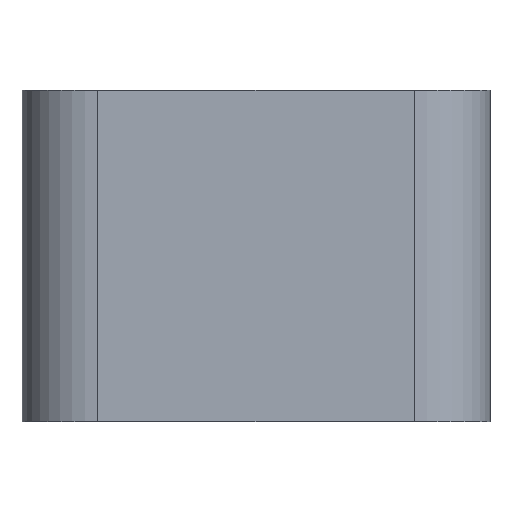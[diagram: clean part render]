
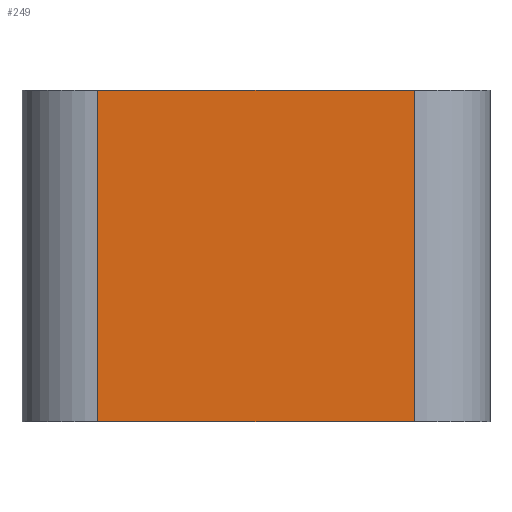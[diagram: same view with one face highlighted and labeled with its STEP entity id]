
A CAD part, top view. The second image highlights one B-rep face of the part: STEP entity #249.
In plain terms, the highlighted planar face has unit normal (0, 0, 1).
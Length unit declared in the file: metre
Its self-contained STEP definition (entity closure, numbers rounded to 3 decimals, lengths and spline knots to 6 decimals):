
#40=ORIENTED_EDGE('',*,*,#104,.T.);
#41=ORIENTED_EDGE('',*,*,#105,.T.);
#42=ORIENTED_EDGE('',*,*,#106,.F.);
#43=ORIENTED_EDGE('',*,*,#107,.T.);
#104=EDGE_CURVE('',#136,#137,#160,.T.);
#105=EDGE_CURVE('',#137,#138,#161,.F.);
#106=EDGE_CURVE('',#139,#138,#162,.T.);
#107=EDGE_CURVE('',#139,#136,#163,.T.);
#136=VERTEX_POINT('',#403);
#137=VERTEX_POINT('',#404);
#138=VERTEX_POINT('',#406);
#139=VERTEX_POINT('',#408);
#160=LINE('',#402,#176);
#161=LINE('',#405,#177);
#162=LINE('',#407,#178);
#163=LINE('',#409,#179);
#176=VECTOR('',#319,1.);
#177=VECTOR('',#320,1.);
#178=VECTOR('',#321,1.);
#179=VECTOR('',#322,1.);
#189=EDGE_LOOP('',(#40,#41,#42,#43));
#215=FACE_BOUND('',#189,.T.);
#241=PLANE('',#278);
#249=ADVANCED_FACE('',(#215),#241,.F.);
#278=AXIS2_PLACEMENT_3D('',#401,#317,#318);
#317=DIRECTION('',(0.,0.,-1.));
#318=DIRECTION('',(0.,1.,0.));
#319=DIRECTION('',(1.,0.,0.));
#320=DIRECTION('',(0.,-1.,0.));
#321=DIRECTION('',(1.,0.,0.));
#322=DIRECTION('',(0.,-1.,0.));
#401=CARTESIAN_POINT('',(0.0909,0.035,0.01));
#402=CARTESIAN_POINT('',(0.0909,0.,0.01));
#403=CARTESIAN_POINT('',(0.0742,0.,0.01));
#404=CARTESIAN_POINT('',(0.1076,0.,0.01));
#405=CARTESIAN_POINT('',(0.1076,0.035,0.01));
#406=CARTESIAN_POINT('',(0.1076,0.035,0.01));
#407=CARTESIAN_POINT('',(0.0909,0.035,0.01));
#408=CARTESIAN_POINT('',(0.0742,0.035,0.01));
#409=CARTESIAN_POINT('',(0.0742,0.,0.01));
